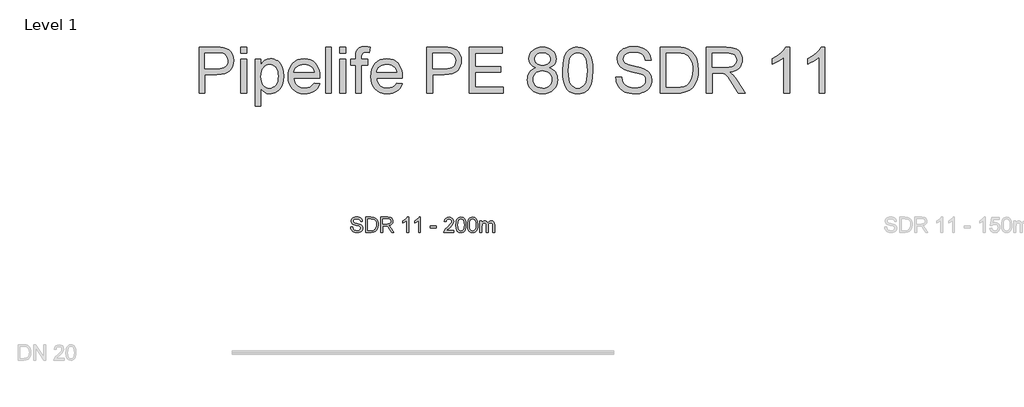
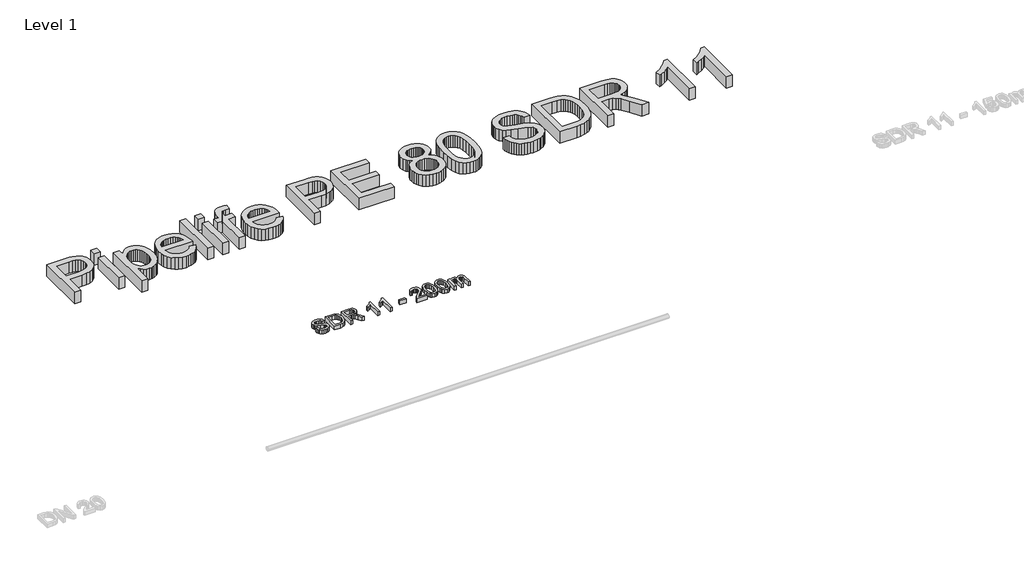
# One storey, part 5 of 6: 2 proxies.
"""IFC4 building model written with IfcOpenShell, lengths in millimetres."""

from ifc_helpers import new_model, si_unit, origin, origin_with_axes, place, context, project, spatial, polyline, outline, extrude, element, save

model = new_model("IFC4")

# Units and contexts
model_context = context("Model", 3, world=origin())
ifc_project = project(units=[si_unit("LENGTHUNIT", "METRE", prefix="MILLI")], contexts=[model_context])

# Site, building, storey
site = spatial("IfcSite", under=ifc_project)
building = spatial("IfcBuilding", under=site)
storey = spatial("IfcBuildingStorey", under=building, Name="Level 1", Elevation=0.0)

# Proxies
placement = place(None, origin())
element("IfcBuildingElementProxy", 1, Name="200mm Arial", ObjectType="200mm Arial", at=placement, inside=storey, context=model_context, shape_type="SweptSolid", body=[
    extrude(outline(polyline([(-14979.1539224, 2231.0128426), (-14954.0398449, 2231.0128426), (-14945.946441, 2205.8742396), (-14937.8162489, 2196.983758), (-14926.1789151, 2189.9817374), (-14911.9541446, 2185.4383947), (-14896.0616424, 2183.9239472), (-14869.8193934, 2188.5102094), (-14852.8722962, 2201.1162991), (-14847.3050153, 2217.9652945), (-14851.4743446, 2233.6370675), (-14857.8264404, 2239.8358791), (-14868.5440692, 2245.0414093), (-14905.1115395, 2254.6308667), (-14944.474913, 2267.0162272), (-14956.9767695, 2275.4652503), (-14965.8365942, 2285.7046325), (-14971.1157008, 2297.5136446), (-14972.875403, 2310.6715573), (-14970.6987679, 2325.3807057), (-14964.1688625, 2339.0965728), (-14953.457365, 2350.7216438), (-14938.7359539, 2359.1584042), (-14921.0653554, 2364.2903581), (-14901.506296, 2366.0010093), (-14880.316293, 2364.2106503), (-14861.7750405, 2358.8395732), (-14846.5447259, 2349.9981425), (-14835.2875368, 2337.796723), (-14828.1628889, 2322.9956041), (-14825.3301975, 2306.3550752), (-14850.444275, 2306.3550752), (-14855.0550627, 2321.3401351), (-14864.6690455, 2332.1558658), (-14879.6908936, 2338.7041653), (-14900.5252773, 2340.8869318), (-14921.8501703, 2338.7286908), (-14936.479611, 2332.2539676), (-14944.9408969, 2322.725824), (-14947.7613255, 2311.4073212), (-14945.7625, 2301.7565502), (-14939.7660235, 2293.9942401), (-14925.5903039, 2287.0535332), (-14898.7594437, 2279.9656734), (-14854.3192987, 2267.3595837), (-14840.0025577, 2258.2483729), (-14830.0145616, 2247.0034466), (-14824.1468437, 2233.7474321), (-14822.1909378, 2218.6029566), (-14824.4411493, 2203.121256), (-14831.1917839, 2188.5592603), (-14842.1669301, 2176.026747), (-14857.0906764, 2166.6334934), (-14875.0371864, 2160.7657756), (-14895.0806238, 2158.8098696), (-14919.6857979, 2160.9190598), (-14939.9377017, 2167.2466301), (-14956.0693272, 2177.8171061), (-14968.3136663, 2192.6550132), (-14976.1740782, 2210.7302819), (-14979.1539224, 2231.0128426)])), origin_with_axes(), (0.0, 0.0, 1.0), 50.0),
    extrude(outline(polyline([(-14784.5198215, 2161.9491293), (-14784.5198215, 2362.8617496), (-14715.2108536, 2362.8617496), (-14679.3546218, 2359.9677446), (-14663.3394923, 2354.388201), (-14649.8259603, 2345.5958213), (-14635.9322836, 2330.2919303), (-14626.036258, 2311.2601685), (-14620.1133578, 2288.8684177), (-14618.1390578, 2263.48456), (-14623.4856095, 2222.9439641), (-14637.2198706, 2193.6850828), (-14655.5649194, 2175.4626613), (-14679.575351, 2165.3826946), (-14711.8753902, 2161.9491293), (-14784.5198215, 2161.9491293)]), holes=[polyline([(-14759.405744, 2187.0632069), (-14714.9655989, 2187.0632069), (-14682.6410343, 2190.6929759), (-14664.0016799, 2200.9446208), (-14655.2767452, 2211.8155338), (-14648.7223143, 2225.8870201), (-14644.6204301, 2243.2203934), (-14643.2531353, 2263.8769675), (-14645.9325425, 2291.2473879), (-14653.9707641, 2311.4563722), (-14665.8472212, 2325.3377861), (-14680.0413349, 2333.7254956), (-14715.652312, 2337.7476721), (-14759.405744, 2337.7476721), (-14759.405744, 2187.0632069)])]), origin_with_axes(), (0.0, 0.0, 1.0), 50.0),
    extrude(outline(polyline([(-14583.6072012, 2161.9491293), (-14583.6072012, 2362.8617496), (-14497.032305, 2362.8617496), (-14473.7637688, 2361.5067176), (-14456.8350657, 2357.4416216), (-14444.4619679, 2349.9368289), (-14434.8602478, 2338.2627069), (-14428.6982244, 2323.7865504), (-14426.6442166, 2307.8756541), (-14430.047125, 2288.0836028), (-14440.2558504, 2271.6760658), (-14457.576961, 2259.6463245), (-14482.3170252, 2252.9876604), (-14468.0432038, 2242.2455062), (-14447.6870667, 2216.3956646), (-14414.1852797, 2161.9491293), (-14443.3705846, 2161.9491293), (-14469.5147318, 2203.5933712), (-14488.3993408, 2231.1599954), (-14501.6676181, 2244.183018), (-14513.6115202, 2248.9654839), (-14528.1796473, 2249.8484007), (-14558.4931237, 2249.8484007), (-14558.4931237, 2161.9491293), (-14583.6072012, 2161.9491293)]), holes=[polyline([(-14558.4931237, 2274.9624783), (-14502.2807548, 2274.9624783), (-14473.6104846, 2278.5186709), (-14464.1804428, 2283.1417213), (-14457.325575, 2289.8984873), (-14451.7582941, 2306.9436864), (-14454.4131759, 2319.1941568), (-14462.377821, 2329.065657), (-14476.0814254, 2335.5771683), (-14495.9531845, 2337.7476721), (-14558.4931237, 2337.7476721), (-14558.4931237, 2274.9624783)])]), origin_with_axes(), (0.0, 0.0, 1.0), 50.0),
    extrude(outline(polyline([(-14219.4530769, 2161.9491293), (-14244.5671544, 2161.9491293), (-14244.5671544, 2318.5197065), (-14268.3568568, 2301.5726092), (-14294.7953095, 2288.8929431), (-14294.7953095, 2312.6335946), (-14257.9825845, 2336.1289913), (-14244.5119721, 2349.7038369), (-14235.6398847, 2362.8617496), (-14219.4530769, 2362.8617496), (-14219.4530769, 2161.9491293)])), origin_with_axes(), (0.0, 0.0, 1.0), 50.0),
    extrude(outline(polyline([(-14065.629352, 2161.9491293), (-14090.7434295, 2161.9491293), (-14090.7434295, 2318.5197065), (-14114.5331319, 2301.5726092), (-14140.9715846, 2288.8929431), (-14140.9715846, 2312.6335946), (-14104.1588596, 2336.1289913), (-14090.6882472, 2349.7038369), (-14081.8161598, 2362.8617496), (-14065.629352, 2362.8617496), (-14065.629352, 2161.9491293)])), origin_with_axes(), (0.0, 0.0, 1.0), 50.0),
    extrude(outline(polyline([(-13933.7804449, 2221.5950635), (-13933.7804449, 2246.709141), (-13855.2989526, 2246.709141), (-13855.2989526, 2221.5950635), (-13933.7804449, 2221.5950635)])), origin_with_axes(), (0.0, 0.0, 1.0), 50.0),
    extrude(outline(polyline([(-13626.1329951, 2187.0632069), (-13626.1329951, 2161.9491293), (-13757.9819022, 2161.9491293), (-13755.2841009, 2179.2641086), (-13740.0292608, 2205.9232905), (-13708.5876129, 2235.0350191), (-13665.2265884, 2276.8754646), (-13657.0963963, 2291.2964388), (-13654.3863323, 2305.3250056), (-13656.9431122, 2317.9004385), (-13664.6134518, 2328.3544185), (-13676.4040697, 2335.3993587), (-13691.3216846, 2337.7476721), (-13706.9873263, 2335.454541), (-13719.1580889, 2328.5751477), (-13727.0123695, 2317.6490524), (-13729.7285649, 2303.2158155), (-13754.8426425, 2306.3550752), (-13748.7541954, 2330.6475496), (-13735.5901514, 2348.3917245), (-13716.0372233, 2359.2442434), (-13690.7821244, 2362.8617496), (-13665.3430844, 2358.8395732), (-13645.8269446, 2346.7730437), (-13633.4109272, 2328.746826), (-13629.2722548, 2306.8455845), (-13633.7358896, 2283.0313567), (-13648.5737968, 2258.4077885), (-13684.5526559, 2223.9985592), (-13713.4436553, 2199.8409748), (-13724.7744207, 2187.0632069), (-13626.1329951, 2187.0632069)])), origin_with_axes(), (0.0, 0.0, 1.0), 50.0),
    extrude(outline(polyline([(-13601.0189175, 2260.7867587), (-13599.1733762, 2292.9457765), (-13593.6367522, 2318.5932829), (-13584.4642278, 2338.1216855), (-13571.7109853, 2351.9233917), (-13555.2850542, 2360.1271601), (-13535.094464, 2362.8617496), (-13519.6188947, 2361.2430689), (-13505.7620063, 2356.3870265), (-13494.1737234, 2348.483695), (-13485.5039711, 2337.7231466), (-13473.7317472, 2307.9982814), (-13469.1700105, 2260.7867587), (-13470.9971577, 2228.811682), (-13476.4785994, 2203.2254892), (-13485.5959416, 2183.6786925), (-13498.33079, 2169.821804), (-13514.7935092, 2161.5628532), (-13535.094464, 2158.8098696), (-13561.1895602, 2163.5923356), (-13581.006137, 2177.9397334), (-13589.7617285, 2193.0688805), (-13596.0157224, 2211.919767), (-13601.0189175, 2260.7867587)]), holes=[polyline([(-13575.90484, 2260.8358096), (-13572.961784, 2221.3314147), (-13564.1326162, 2198.4675487), (-13550.9869662, 2187.5598476), (-13535.094464, 2183.9239472), (-13519.2019618, 2187.5721103), (-13506.0563119, 2198.5165997), (-13497.227144, 2221.3927284), (-13494.284088, 2260.8358096), (-13497.1290421, 2299.4511564), (-13505.6639044, 2322.492832), (-13518.7850289, 2333.9339621), (-13535.3887696, 2337.7476721), (-13551.1095935, 2334.3876832), (-13563.7402087, 2324.3077165), (-13572.8636822, 2299.8313011), (-13575.90484, 2260.8358096)])]), origin_with_axes(), (0.0, 0.0, 1.0), 50.0),
    extrude(outline(polyline([(-13447.1951926, 2260.7867587), (-13445.3496513, 2292.9457765), (-13439.8130273, 2318.5932829), (-13430.6405028, 2338.1216855), (-13417.8872603, 2351.9233917), (-13401.4613293, 2360.1271601), (-13381.2707391, 2362.8617496), (-13365.7951698, 2361.2430689), (-13351.9382813, 2356.3870265), (-13340.3499985, 2348.483695), (-13331.6802461, 2337.7231466), (-13319.9080223, 2307.9982814), (-13315.3462856, 2260.7867587), (-13317.1734328, 2228.811682), (-13322.6548745, 2203.2254892), (-13331.7722166, 2183.6786925), (-13344.507065, 2169.821804), (-13360.9697843, 2161.5628532), (-13381.2707391, 2158.8098696), (-13407.3658353, 2163.5923356), (-13427.1824121, 2177.9397334), (-13435.9380036, 2193.0688805), (-13442.1919975, 2211.919767), (-13447.1951926, 2260.7867587)]), holes=[polyline([(-13422.0811151, 2260.8358096), (-13419.1380591, 2221.3314147), (-13410.3088912, 2198.4675487), (-13397.1632413, 2187.5598476), (-13381.2707391, 2183.9239472), (-13365.3782369, 2187.5721103), (-13352.2325869, 2198.5165997), (-13343.4034191, 2221.3927284), (-13340.4603631, 2260.8358096), (-13343.3053172, 2299.4511564), (-13351.8401795, 2322.492832), (-13364.961304, 2333.9339621), (-13381.5650447, 2337.7476721), (-13397.2858686, 2334.3876832), (-13409.9164838, 2324.3077165), (-13419.0399573, 2299.8313011), (-13422.0811151, 2260.8358096)])]), origin_with_axes(), (0.0, 0.0, 1.0), 50.0),
    extrude(outline(polyline([(-13287.0929483, 2161.9491293), (-13287.0929483, 2309.4943349), (-13261.9788708, 2309.4943349), (-13261.9788708, 2285.2141232), (-13254.4250272, 2296.367079), (-13244.7129425, 2305.1042764), (-13233.1737106, 2310.751265), (-13220.1384252, 2312.6335946), (-13206.1711721, 2310.7144768), (-13194.9752967, 2304.9571236), (-13186.6121127, 2295.7416796), (-13181.1429337, 2283.4482896), (-13171.9888034, 2296.2168605), (-13161.5470861, 2305.3372683), (-13149.8177818, 2310.809513), (-13136.8008906, 2312.6335946), (-13117.9224128, 2309.5985681), (-13103.9612911, 2300.4934887), (-13095.3344583, 2285.0731018), (-13092.4588474, 2263.0921525), (-13092.4588474, 2161.9491293), (-13117.5729249, 2161.9491293), (-13117.5729249, 2252.3009474), (-13119.9028442, 2273.2702211), (-13128.3396047, 2283.5954424), (-13142.6870025, 2287.519517), (-13156.2925049, 2285.0056567), (-13167.3841471, 2277.4640758), (-13174.7601811, 2264.3797395), (-13177.2188591, 2245.237613), (-13177.2188591, 2161.9491293), (-13202.3329366, 2161.9491293), (-13202.3329366, 2255.0968505), (-13203.7860705, 2269.2970955), (-13208.1454722, 2279.4261131), (-13215.8158118, 2285.4961661), (-13227.2017595, 2287.519517), (-13245.792063, 2282.1239144), (-13253.1497029, 2275.4775131), (-13258.152898, 2266.3295141), (-13261.9788708, 2236.3593942), (-13261.9788708, 2161.9491293), (-13287.0929483, 2161.9491293)])), origin_with_axes(), (0.0, 0.0, 1.0), 50.0),
])
element("IfcBuildingElementProxy", 2, Name="600mm Arial", ObjectType="600mm Arial", at=placement, inside=storey, context=model_context, shape_type="SweptSolid", body=[
    extrude(outline(polyline([(-16966.7426717, 3990.4626098), (-16966.7426717, 4593.2004707), (-16743.3647242, 4593.2004707), (-16691.3462101, 4591.7657309), (-16653.3072118, 4587.4615116), (-16613.152892, 4576.7377514), (-16580.0986947, 4559.2817508), (-16553.4824324, 4534.3025633), (-16532.6419174, 4501.0092427), (-16519.1774363, 4461.7378398), (-16514.689276, 4418.824405), (-16517.7197039, 4381.8246734), (-16526.8109877, 4347.7863917), (-16541.9631274, 4316.7095602), (-16563.176123, 4288.5941787), (-16592.2985814, 4265.2888543), (-16631.1791098, 4248.642194), (-16679.8177081, 4238.6541979), (-16738.2143763, 4235.3248658), (-16891.4004391, 4235.3248658), (-16891.4004391, 3990.4626098), (-16966.7426717, 3990.4626098)]), holes=[polyline([(-16891.4004391, 4310.6670984), (-16733.7997923, 4310.6670984), (-16697.5634158, 4312.3961438), (-16666.992422, 4317.5832799), (-16642.0868109, 4326.2285068), (-16622.8465826, 4338.3318245), (-16608.4899877, 4353.5713361), (-16598.2352771, 4371.625145), (-16592.0824507, 4392.4932512), (-16590.0315086, 4416.1756547), (-16594.8691569, 4450.0207982), (-16609.3821016, 4478.568441), (-16631.767721, 4500.0527496), (-16660.2233933, 4512.7078902), (-16689.2860709, 4516.5706511), (-16735.5656259, 4517.8582381), (-16891.4004391, 4517.8582381), (-16891.4004391, 4310.6670984)])]), origin_with_axes(), (0.0, 0.0, 1.0), 150.0),
    extrude(outline(polyline([(-16420.5114852, 3990.4626098), (-16420.5114852, 4433.0982264), (-16345.1692526, 4433.0982264), (-16345.1692526, 3990.4626098), (-16420.5114852, 3990.4626098)])), origin_with_axes(), (0.0, 0.0, 1.0), 150.0),
    extrude(outline(polyline([(-16420.5114852, 4517.8582381), (-16420.5114852, 4593.2004707), (-16345.1692526, 4593.2004707), (-16345.1692526, 4517.8582381), (-16420.5114852, 4517.8582381)])), origin_with_axes(), (0.0, 0.0, 1.0), 150.0),
    extrude(outline(polyline([(-16232.1559037, 3820.9425865), (-16232.1559037, 4433.0982264), (-16156.8136711, 4433.0982264), (-16156.8136711, 4359.2275218), (-16132.2391538, 4395.6662334), (-16104.7215806, 4421.6938846), (-16072.6422706, 4437.3104753), (-16034.3825431, 4442.5160055), (-16008.1065716, 4440.6949896), (-15983.4308868, 4435.231942), (-15960.3554886, 4426.1268626), (-15938.8803772, 4413.3797515), (-15919.4746019, 4397.3217024), (-15902.6072124, 4378.2838091), (-15888.2782087, 4356.2660717), (-15876.4875908, 4331.2684902), (-15860.7054532, 4275.7550971), (-15855.4447407, 4215.1649325), (-15861.3860349, 4150.730401), (-15868.8126526, 4121.0653166), (-15879.2099175, 4093.1016865), (-15892.4352753, 4067.570676), (-15908.3461716, 4045.2034507), (-15926.9426064, 4026.0000106), (-15948.2245798, 4009.9603556), (-15971.1482267, 3997.3098135), (-15994.6696817, 3988.273712), (-16018.788945, 3982.8520511), (-16043.5060166, 3981.0448308), (-16078.1421064, 3985.882479), (-16109.0625881, 4000.3954237), (-16135.5316977, 4022.3027965), (-16156.8136711, 4049.3237291), (-16156.8136711, 3820.9425865), (-16232.1559037, 3820.9425865)]), holes=[polyline([(-16156.8136711, 4208.248751), (-16154.7765246, 4171.9387981), (-16148.6650849, 4140.7056167), (-16138.4793522, 4114.5492068), (-16124.2193263, 4093.4695685), (-16107.0530327, 4077.2459725), (-16088.1484967, 4065.6576896), (-16067.5057182, 4058.7047199), (-16045.1246974, 4056.3870634), (-16022.4217797, 4058.7874934), (-16001.4019222, 4065.9887834), (-15982.0651249, 4077.9909335), (-15964.4113876, 4094.7939437), (-15949.7007063, 4116.6369371), (-15939.1930769, 4143.7590372), (-15932.8884992, 4176.1602439), (-15930.7869733, 4213.8405573), (-15932.8379154, 4249.8378105), (-15938.9907418, 4281.0158096), (-15949.2454524, 4307.3745546), (-15963.6020472, 4328.9140454), (-15980.8097276, 4345.6526762), (-15999.6176946, 4357.608841), (-16020.0259482, 4364.7825399), (-16042.0344886, 4367.1737729), (-16063.9740511, 4364.6307886), (-16084.6168295, 4357.0018357), (-16103.962824, 4344.2869143), (-16122.0120344, 4326.4860242), (-16137.2377504, 4303.8382889), (-16148.1132619, 4276.5828316), (-16154.6385688, 4244.7196523), (-16156.8136711, 4208.248751)])]), origin_with_axes(), (0.0, 0.0, 1.0), 150.0),
    extrude(outline(polyline([(-15460.7809362, 4122.3115169), (-15386.9102316, 4112.8937378), (-15398.2363985, 4083.3068284), (-15413.5264939, 4057.233192), (-15432.7805179, 4034.6728286), (-15455.9984703, 4015.6257383), (-15482.9412279, 4000.4965913), (-15513.3696674, 3989.6900576), (-15547.2837889, 3983.2061375), (-15584.6835922, 3981.0448308), (-15631.4321967, 3984.7742345), (-15673.0856356, 3995.9624457), (-15709.6439089, 4014.6094643), (-15741.1070165, 4040.7152904), (-15766.4081008, 4073.553357), (-15784.4803038, 4112.3970971), (-15795.3236256, 4157.2465109), (-15798.9380662, 4208.1015982), (-15795.2868374, 4260.6811323), (-15784.333151, 4307.0250667), (-15766.077007, 4347.1334012), (-15740.5184054, 4381.0061359), (-15709.1380712, 4407.9167039), (-15673.4167294, 4427.1385381), (-15633.3543802, 4438.6716387), (-15588.9510233, 4442.5160055), (-15545.9778078, 4438.6808357), (-15507.1156735, 4427.1753263), (-15472.3646205, 4407.9994773), (-15441.7246489, 4381.1532887), (-15416.7132717, 4347.3541304), (-15398.8480023, 4307.3193723), (-15388.1288407, 4261.0490143), (-15384.5557868, 4208.5430566), (-15384.9972452, 4188.2359704), (-15723.5958336, 4188.2359704), (-15719.2318334, 4158.1708144), (-15710.5544168, 4131.8396606), (-15697.5635839, 4109.242509), (-15680.2593345, 4090.3793597), (-15659.598162, 4075.5077301), (-15636.5365594, 4064.8851375), (-15611.0745268, 4058.5115819), (-15583.2120642, 4056.3870634), (-15543.1129267, 4060.3234007), (-15509.3413596, 4072.1324128), (-15481.8973627, 4092.5498635), (-15460.7809362, 4122.3115169)]), holes=[polyline([(-15723.5958336, 4263.5782031), (-15459.8980194, 4263.5782031), (-15470.0883507, 4303.3830349), (-15478.8531392, 4319.0364138), (-15490.064343, 4331.8571014), (-15510.6105525, 4347.3081452), (-15533.9894533, 4358.344605), (-15560.2010454, 4364.9664809), (-15589.2453289, 4367.1737729), (-15615.7374311, 4365.4125378), (-15640.0314384, 4360.1288327), (-15662.1273507, 4351.3226574), (-15682.0251681, 4338.9940121), (-15698.7224122, 4323.7131137), (-15711.2166044, 4306.0501794), (-15719.5077449, 4286.0052092), (-15723.5958336, 4263.5782031)])]), origin_with_axes(), (0.0, 0.0, 1.0), 150.0),
    extrude(outline(polyline([(-15309.2135542, 3990.4626098), (-15309.2135542, 4593.2004707), (-15233.8713216, 4593.2004707), (-15233.8713216, 3990.4626098), (-15309.2135542, 3990.4626098)])), origin_with_axes(), (0.0, 0.0, 1.0), 150.0),
    extrude(outline(polyline([(-15120.8579727, 4517.8582381), (-15120.8579727, 4593.2004707), (-15045.5157401, 4593.2004707), (-15045.5157401, 4517.8582381), (-15120.8579727, 4517.8582381)])), origin_with_axes(), (0.0, 0.0, 1.0), 150.0),
    extrude(outline(polyline([(-15120.8579727, 3990.4626098), (-15120.8579727, 4433.0982264), (-15045.5157401, 4433.0982264), (-15045.5157401, 3990.4626098), (-15120.8579727, 3990.4626098)])), origin_with_axes(), (0.0, 0.0, 1.0), 150.0),
    extrude(outline(polyline([(-14913.666833, 3990.4626098), (-14913.666833, 4357.7559938), (-14979.5912865, 4357.7559938), (-14979.5912865, 4433.0982264), (-14913.666833, 4433.0982264), (-14913.666833, 4477.6855242), (-14911.6802702, 4514.5840884), (-14905.7205819, 4540.519769), (-14890.5638437, 4565.5725329), (-14867.1665488, 4585.4013724), (-14834.4250512, 4598.3140305), (-14791.235705, 4602.6182498), (-14758.5309956, 4600.5581106), (-14722.5153483, 4594.3776931), (-14733.5518082, 4523.74435), (-14776.9618836, 4527.2760172), (-14805.6014969, 4524.1490202), (-14824.418661, 4514.7680294), (-14834.8481155, 4496.8521762), (-14838.3246004, 4468.1205924), (-14838.3246004, 4433.0982264), (-14753.5645887, 4433.0982264), (-14753.5645887, 4357.7559938), (-14838.3246004, 4357.7559938), (-14838.3246004, 3990.4626098), (-14913.666833, 3990.4626098)])), origin_with_axes(), (0.0, 0.0, 1.0), 150.0),
    extrude(outline(polyline([(-14377.7363424, 4122.3115169), (-14303.8656378, 4112.8937378), (-14315.1918047, 4083.3068284), (-14330.4819001, 4057.233192), (-14349.7359241, 4034.6728286), (-14372.9538765, 4015.6257383), (-14399.8966341, 4000.4965913), (-14430.3250736, 3989.6900576), (-14464.2391951, 3983.2061375), (-14501.6389984, 3981.0448308), (-14548.3876029, 3984.7742345), (-14590.0410418, 3995.9624457), (-14626.5993151, 4014.6094643), (-14658.0624227, 4040.7152904), (-14683.363507, 4073.553357), (-14701.43571, 4112.3970971), (-14712.2790318, 4157.2465109), (-14715.8934724, 4208.1015982), (-14712.2422436, 4260.6811323), (-14701.2885572, 4307.0250667), (-14683.0324132, 4347.1334012), (-14657.4738116, 4381.0061359), (-14626.0934774, 4407.9167039), (-14590.3721356, 4427.1385381), (-14550.3097864, 4438.6716387), (-14505.9064295, 4442.5160055), (-14462.933214, 4438.6808357), (-14424.0710797, 4427.1753263), (-14389.3200267, 4407.9994773), (-14358.6800551, 4381.1532887), (-14333.6686779, 4347.3541304), (-14315.8034085, 4307.3193723), (-14305.0842469, 4261.0490143), (-14301.511193, 4208.5430566), (-14301.9526514, 4188.2359704), (-14640.5512398, 4188.2359704), (-14636.1872396, 4158.1708144), (-14627.509823, 4131.8396606), (-14614.5189901, 4109.242509), (-14597.2147407, 4090.3793597), (-14576.5535682, 4075.5077301), (-14553.4919656, 4064.8851375), (-14528.029933, 4058.5115819), (-14500.1674704, 4056.3870634), (-14460.0683329, 4060.3234007), (-14426.2967658, 4072.1324128), (-14398.8527689, 4092.5498635), (-14377.7363424, 4122.3115169)]), holes=[polyline([(-14640.5512398, 4263.5782031), (-14376.8534256, 4263.5782031), (-14387.0437569, 4303.3830349), (-14395.8085454, 4319.0364138), (-14407.0197492, 4331.8571014), (-14427.5659587, 4347.3081452), (-14450.9448595, 4358.344605), (-14477.1564516, 4364.9664809), (-14506.2007351, 4367.1737729), (-14532.6928373, 4365.4125378), (-14556.9868446, 4360.1288327), (-14579.0827569, 4351.3226574), (-14598.9805743, 4338.9940121), (-14615.6778184, 4323.7131137), (-14628.1720106, 4306.0501794), (-14636.4631511, 4286.0052092), (-14640.5512398, 4263.5782031)])]), origin_with_axes(), (0.0, 0.0, 1.0), 150.0),
    extrude(outline(polyline([(-13981.3067044, 3990.4626098), (-13981.3067044, 4593.2004707), (-13757.928757, 4593.2004707), (-13705.9102428, 4591.7657309), (-13667.8712445, 4587.4615116), (-13627.7169248, 4576.7377514), (-13594.6627275, 4559.2817508), (-13568.0464651, 4534.3025633), (-13547.2059501, 4501.0092427), (-13533.7414691, 4461.7378398), (-13529.2533087, 4418.824405), (-13532.2837367, 4381.8246734), (-13541.3750205, 4347.7863917), (-13556.5271602, 4316.7095602), (-13577.7401557, 4288.5941787), (-13606.8626142, 4265.2888543), (-13645.7431425, 4248.642194), (-13694.3817408, 4238.6541979), (-13752.778409, 4235.3248658), (-13905.9644718, 4235.3248658), (-13905.9644718, 3990.4626098), (-13981.3067044, 3990.4626098)]), holes=[polyline([(-13905.9644718, 4310.6670984), (-13748.3638251, 4310.6670984), (-13712.1274486, 4312.3961438), (-13681.5564548, 4317.5832799), (-13656.6508437, 4326.2285068), (-13637.4106153, 4338.3318245), (-13623.0540205, 4353.5713361), (-13612.7993099, 4371.625145), (-13606.6464835, 4392.4932512), (-13604.5955414, 4416.1756547), (-13609.4331896, 4450.0207982), (-13623.9461343, 4478.568441), (-13646.3317537, 4500.0527496), (-13674.787426, 4512.7078902), (-13703.8501037, 4516.5706511), (-13750.1296587, 4517.8582381), (-13905.9644718, 4517.8582381), (-13905.9644718, 4310.6670984)])]), origin_with_axes(), (0.0, 0.0, 1.0), 150.0),
    extrude(outline(polyline([(-13425.6577389, 3990.4626098), (-13425.6577389, 4593.2004707), (-12992.4399014, 4593.2004707), (-12992.4399014, 4517.8582381), (-13350.3155063, 4517.8582381), (-13350.3155063, 4338.9204357), (-13011.2754595, 4338.9204357), (-13011.2754595, 4263.5782031), (-13350.3155063, 4263.5782031), (-13350.3155063, 4065.8048424), (-12983.0221223, 4065.8048424), (-12983.0221223, 3990.4626098), (-13425.6577389, 3990.4626098)])), origin_with_axes(), (0.0, 0.0, 1.0), 150.0),
    extrude(outline(polyline([(-12553.0416463, 4322.4393223), (-12593.3799071, 4342.30495), (-12609.0378845, 4354.8865143), (-12621.6884266, 4369.2339121), (-12638.4086633, 4402.6743854), (-12643.9820756, 4442.0745471), (-12640.9470491, 4472.8018908), (-12631.8419697, 4500.9724545), (-12616.6668374, 4526.5862385), (-12595.4216522, 4549.6432425), (-12569.1272866, 4568.6995299), (-12538.8046131, 4582.3111637), (-12504.4536318, 4590.478144), (-12466.0743427, 4593.2004707), (-12427.5111125, 4590.4137646), (-12392.9026138, 4582.0536463), (-12362.2488466, 4568.1201157), (-12335.5498108, 4548.6131729), (-12313.9183495, 4525.1055134), (-12298.4673057, 4499.1698328), (-12289.1966794, 4470.8061309), (-12286.1064706, 4440.0144079), (-12291.6063065, 4401.8834391), (-12308.105814, 4369.0131829), (-12320.5264298, 4354.7623541), (-12335.7889341, 4342.2497677), (-12374.8396079, 4322.4393223), (-12350.0765511, 4311.9041016), (-12328.4680824, 4298.5453867), (-12310.0142018, 4282.3631774), (-12294.7149093, 4263.3574739), (-12282.7081607, 4241.9513403), (-12274.1319117, 4218.5678409), (-12268.9861623, 4193.2069759), (-12267.2709125, 4165.8687451), (-12270.6738209, 4128.2895993), (-12280.8825463, 4093.8374505), (-12297.8970886, 4062.5122986), (-12321.7174478, 4034.3141437), (-12351.0928251, 4011.0088193), (-12384.7724218, 3994.362159), (-12422.7562378, 3984.3741628), (-12465.0442731, 3981.0448308), (-12507.3323084, 3984.3879584), (-12545.3161244, 3994.4173413), (-12578.9957211, 4011.1329794), (-12608.3710984, 4034.5348729), (-12632.1914576, 4062.9307644), (-12649.2059999, 4094.6283968), (-12659.4147253, 4129.6277701), (-12662.8176337, 4167.9288843), (-12661.033406, 4196.5133153), (-12655.680723, 4222.6697252), (-12646.7595846, 4246.3981139), (-12634.2699909, 4267.6984814), (-12618.4878533, 4286.1845517), (-12599.6890833, 4301.4700486), (-12577.873681, 4313.5549721), (-12553.0416463, 4322.4393223)]), holes=[polyline([(-12587.4754011, 4170.5776347), (-12584.33001, 4141.7540803), (-12574.8938369, 4113.850231), (-12557.4746244, 4089.514837), (-12530.3801154, 4071.3966488), (-12497.9329235, 4060.1394597), (-12464.4556619, 4056.3870634), (-12437.2140002, 4058.3598306), (-12413.1729118, 4064.2781322), (-12392.3323968, 4074.1419682), (-12374.6924551, 4087.9513386), (-12360.657757, 4104.8049325), (-12350.6329726, 4123.801439), (-12344.618102, 4144.9408581), (-12342.6131451, 4168.2231899), (-12344.6824813, 4191.8780022), (-12350.89049, 4213.3990989), (-12361.2371711, 4232.7864801), (-12375.7225247, 4250.0401456), (-12393.8407129, 4264.2036024), (-12415.0858982, 4274.3203573), (-12439.4580803, 4280.3904102), (-12466.9572595, 4282.4137612), (-12493.7988495, 4280.4180014), (-12517.5226397, 4274.4307219), (-12538.12863, 4264.4519228), (-12555.6168203, 4250.481604), (-12569.5549494, 4233.513047), (-12579.5107559, 4214.5395331), (-12585.4842398, 4193.5610623), (-12587.4754011, 4170.5776347)]), polyline([(-12568.6398429, 4439.8672551), (-12566.9705784, 4422.5951955), (-12561.9627847, 4406.9786048), (-12553.616462, 4393.0174831), (-12541.9316101, 4380.7118303), (-12527.0553819, 4370.6686518), (-12509.1349302, 4363.4949529), (-12488.170255, 4359.1907336), (-12464.1613563, 4357.7559938), (-12440.7456673, 4359.1815365), (-12420.2362461, 4363.4581647), (-12402.6330926, 4370.5858784), (-12387.9362069, 4380.5646775), (-12376.3479241, 4392.6128129), (-12368.0705792, 4405.9485352), (-12363.1041722, 4420.5718445), (-12361.4487033, 4436.4827408), (-12363.1593545, 4453.0144379), (-12368.2913084, 4468.1757747), (-12376.8445648, 4481.966751), (-12388.8191237, 4494.3873668), (-12403.8471032, 4504.655873), (-12421.5606213, 4511.9905203), (-12441.9596779, 4516.3913087), (-12465.0442731, 4517.8582381), (-12488.3082108, 4516.4234983), (-12508.8038364, 4512.119279), (-12526.5311501, 4504.9455801), (-12541.4901517, 4494.9024016), (-12553.3681416, 4482.8542663), (-12561.8524201, 4469.6656967), (-12566.9429872, 4455.336693), (-12568.6398429, 4439.8672551)])]), origin_with_axes(), (0.0, 0.0, 1.0), 150.0),
    extrude(outline(polyline([(-12201.346459, 4286.9754979), (-12195.8098349, 4383.4525512), (-12188.8890549, 4424.3656276), (-12179.1999628, 4460.3950705), (-12166.7839455, 4491.8351855), (-12151.6823896, 4518.9802782), (-12133.8952951, 4541.8303486), (-12113.4226621, 4560.3853968), (-12090.1955126, 4574.7419916), (-12064.1448689, 4584.9967022), (-12035.2707308, 4591.1495286), (-12003.5730984, 4593.2004707), (-11957.1463906, 4588.3444284), (-11915.5757251, 4573.7763014), (-11880.8108766, 4550.0663068), (-11854.8016195, 4517.7846617), (-11835.156721, 4477.2072777), (-11819.484948, 4428.6100661), (-11809.2210403, 4366.8978614), (-11805.7997377, 4286.9754979), (-11811.2811795, 4191.0502677), (-11818.1329816, 4150.2751471), (-11827.7255047, 4114.2916894), (-11840.044953, 4082.8377788), (-11855.077531, 4055.6512994), (-11872.8232387, 4032.7322511), (-11893.2820762, 4014.0806339), (-11916.5368168, 3999.62747), (-11942.670234, 3989.3037815), (-11971.6823279, 3983.1095685), (-12003.5730984, 3981.0448308), (-12045.0701874, 3984.6316802), (-12081.8583869, 3995.3922286), (-12113.9376969, 4013.3264758), (-12141.3081173, 4038.434422), (-12167.5748918, 4083.8218632), (-12186.3368736, 4140.3745229), (-12197.5940626, 4208.0924011), (-12201.346459, 4286.9754979)]), holes=[polyline([(-12126.0042263, 4287.1226507), (-12123.7969344, 4221.62586), (-12117.1750585, 4168.609466), (-12106.1385986, 4128.0734687), (-12090.6875548, 4100.017868), (-12071.9991495, 4080.929391), (-12051.2506049, 4067.2947645), (-12028.4419212, 4059.1139887), (-12003.5730984, 4056.3870634), (-11978.7042755, 4059.1231857), (-11955.8955918, 4067.3315527), (-11935.1470472, 4081.0121644), (-11916.4586419, 4100.1650208), (-11901.0075981, 4128.2666067), (-11889.9711382, 4168.793407), (-11883.3492623, 4221.7454217), (-11881.1419704, 4287.1226507), (-11883.2756859, 4350.8857976), (-11889.6768326, 4402.968691), (-11900.3454105, 4443.3713311), (-11915.2814195, 4472.0937179), (-11933.6571252, 4492.1156955), (-11954.644793, 4506.4171081), (-11978.244423, 4514.9979556), (-12004.4560151, 4517.8582381), (-12029.1960793, 4515.3382465), (-12051.6184869, 4507.7782714), (-12071.723238, 4495.1783131), (-12089.5103324, 4477.5383714), (-12105.476411, 4446.2684019), (-12116.8807529, 4404.1091252), (-12123.723358, 4351.0605415), (-12126.0042263, 4287.1226507)])]), origin_with_axes(), (0.0, 0.0, 1.0), 150.0),
    extrude(outline(polyline([(-11504.4308073, 4197.6537495), (-11429.0885747, 4197.6537495), (-11420.4433478, 4155.8439608), (-11404.808363, 4122.2379405), (-11380.4177867, 4095.5664959), (-11345.5057854, 4074.5604339), (-11302.8314739, 4060.930406), (-11255.1539674, 4056.3870634), (-11213.1786317, 4059.82676), (-11176.4272204, 4070.14585), (-11146.6471729, 4086.4798106), (-11125.5859287, 4107.9641191), (-11113.0595467, 4132.6306069), (-11108.8840861, 4158.5111052), (-11112.011083, 4183.729416), (-11121.3920739, 4205.5264242), (-11140.4483613, 4224.1228591), (-11172.6012476, 4239.7394498), (-11282.3036586, 4268.5078218), (-11354.3165592, 4287.545715), (-11400.3937791, 4305.6639033), (-11437.8993485, 4331.0109728), (-11464.4788226, 4361.7291194), (-11480.3161425, 4397.1561555), (-11485.5952491, 4436.6298936), (-11483.9627728, 4459.0660968), (-11479.0653437, 4480.7573389), (-11470.902962, 4501.70362), (-11459.4756275, 4521.9049401), (-11444.912099, 4540.5381631), (-11427.3411352, 4556.7801532), (-11406.7627361, 4570.6309103), (-11383.1769017, 4582.0904345), (-11330.1651062, 4597.486296), (-11271.4879279, 4602.6182498), (-11207.9179192, 4597.2471727), (-11152.2941615, 4581.1339413), (-11127.9587675, 4569.1317912), (-11106.6032177, 4554.6096494), (-11088.2275121, 4537.567516), (-11072.8316506, 4518.0053909), (-11060.5351949, 4496.4934912), (-11051.4577066, 4473.6020341), (-11045.5991859, 4449.3310195), (-11042.9596325, 4423.6804474), (-11118.3018652, 4423.6804474), (-11123.3418485, 4447.7215357), (-11132.1342282, 4468.6356272), (-11144.6790042, 4486.4227216), (-11160.9761766, 4501.0828191), (-11181.329248, 4512.5423433), (-11206.041721, 4520.7277177), (-11235.1135957, 4525.6389423), (-11268.544872, 4527.2760172), (-11303.0430061, 4525.6573364), (-11332.5195509, 4520.8012941), (-11356.9745066, 4512.7078902), (-11376.407873, 4501.3771247), (-11391.2151233, 4487.7562939), (-11401.7917306, 4472.7926937), (-11408.1376951, 4456.4863243), (-11410.2530165, 4438.8371856), (-11408.7538974, 4423.6528562), (-11404.25654, 4409.8848725), (-11396.7609444, 4397.5332345), (-11386.2671104, 4386.5979422), (-11369.7492089, 4376.2420641), (-11343.7399518, 4365.7758213), (-11263.2473713, 4344.512242), (-11180.1796167, 4324.3155205), (-11129.9269362, 4306.6939729), (-11086.9767133, 4279.3603406), (-11070.3714397, 4263.2930945), (-11057.0127248, 4245.6255617), (-11046.7442186, 4226.4497127), (-11039.4095713, 4205.857518), (-11033.5418535, 4160.4240916), (-11035.2295121, 4136.8566513), (-11040.2924881, 4113.9789897), (-11048.7307813, 4091.7911069), (-11060.5443919, 4070.2930028), (-11075.5263862, 4050.3170104), (-11093.4698305, 4032.6954629), (-11114.3747249, 4017.4283601), (-11138.2410693, 4004.515702), (-11164.3744865, 3994.2471959), (-11192.0805993, 3986.9125486), (-11252.2109114, 3981.0448308), (-11290.7511489, 3982.6267233), (-11326.0264337, 3987.3724011), (-11358.0367658, 3995.281864), (-11386.7821452, 4006.355112), (-11412.4373159, 4020.6105393), (-11435.1770217, 4038.06654), (-11455.0012627, 4058.723114), (-11471.9100389, 4082.5802614), (-11485.5308698, 4108.86543), (-11495.4912748, 4136.8060675), (-11501.791254, 4166.402174), (-11504.4308073, 4197.6537495)])), origin_with_axes(), (0.0, 0.0, 1.0), 150.0),
    extrude(outline(polyline([(-10920.5285046, 3990.4626098), (-10920.5285046, 4593.2004707), (-10712.6016009, 4593.2004707), (-10650.4663319, 4591.029967), (-10605.0329055, 4584.5184556), (-10556.9875169, 4567.7798249), (-10516.446921, 4541.4026858), (-10494.1072869, 4519.8448009), (-10474.765891, 4495.4910128), (-10458.4227334, 4468.3413216), (-10445.077814, 4438.3957272), (-10434.7127388, 4405.9301411), (-10427.3091136, 4371.2204748), (-10421.3862135, 4295.0689018), (-10425.3961272, 4230.376853), (-10437.4258685, 4173.4471142), (-10455.7463918, 4124.9786614), (-10478.6286519, 4085.6704702), (-10504.9690028, 4054.6396239), (-10533.6637984, 4031.0032057), (-10566.6076311, 4013.4736286), (-10605.6950931, 4000.7633057), (-10650.9997608, 3993.0377838), (-10702.5952106, 3990.4626098), (-10920.5285046, 3990.4626098)]), holes=[polyline([(-10845.1862719, 4065.8048424), (-10711.8658369, 4065.8048424), (-10656.7203258, 4068.5271692), (-10614.892143, 4076.6941495), (-10583.3278678, 4089.8275367), (-10558.9740797, 4107.4490843), (-10532.7992757, 4140.0618232), (-10513.1359831, 4182.2762821), (-10500.8303304, 4234.2764021), (-10496.7284461, 4296.2461242), (-10498.7380015, 4339.9872934), (-10504.7666677, 4378.3573855), (-10514.8144447, 4411.3564005), (-10528.8813325, 4438.9843384), (-10545.8268969, 4461.8665985), (-10564.5107037, 4480.6285802), (-10584.932753, 4495.2702836), (-10607.0930447, 4505.7917087), (-10650.4295437, 4514.8416058), (-10713.9259761, 4517.8582381), (-10845.1862719, 4517.8582381), (-10845.1862719, 4065.8048424)])]), origin_with_axes(), (0.0, 0.0, 1.0), 150.0),
    extrude(outline(polyline([(-10317.7906437, 3990.4626098), (-10317.7906437, 4593.2004707), (-10058.0659551, 4593.2004707), (-9988.2603465, 4589.1353747), (-9937.474237, 4576.9400865), (-9917.8753237, 4567.246396), (-9900.3549437, 4554.4257084), (-9884.913097, 4538.4780239), (-9871.5497835, 4519.4033425), (-9860.7662425, 4498.2271351), (-9853.0637132, 4475.974873), (-9848.4421957, 4452.6465559), (-9846.9016898, 4428.2421841), (-9849.4538712, 4397.2849142), (-9857.1104152, 4368.8660301), (-9869.8713219, 4342.9855317), (-9887.7365913, 4319.6434191), (-9910.9361496, 4299.5846533), (-9939.6999231, 4283.5541954), (-9974.0279118, 4271.5520453), (-10013.9201156, 4263.5782031), (-9989.088081, 4247.3546071), (-9971.0986514, 4231.3517403), (-9940.233352, 4194.7474818), (-9910.0302402, 4153.8022157), (-9809.5248791, 3990.4626098), (-9897.080794, 3990.4626098), (-9975.5132353, 4115.3953354), (-10032.1670626, 4198.0952079), (-10053.2283068, 4222.2098727), (-10071.9718945, 4237.1642758), (-10107.8036008, 4251.5116736), (-10151.5079818, 4254.160424), (-10242.448411, 4254.160424), (-10242.448411, 3990.4626098), (-10317.7906437, 3990.4626098)]), holes=[polyline([(-10242.448411, 4329.5026566), (-10073.8113045, 4329.5026566), (-10025.3796398, 4332.1698011), (-9987.800494, 4340.1712344), (-9959.5103686, 4354.0403857), (-9938.945765, 4374.3106836), (-9926.4193831, 4398.8300186), (-9922.2439224, 4425.4462809), (-9924.2350837, 4444.7141004), (-9930.2085676, 4462.1976922), (-9940.1643741, 4477.8970564), (-9954.1025032, 4491.8121929), (-9972.3448517, 4503.2073377), (-9995.2133162, 4511.3467268), (-10022.7078968, 4516.2303603), (-10054.8285935, 4517.8582381), (-10242.448411, 4517.8582381), (-10242.448411, 4329.5026566)])]), origin_with_axes(), (0.0, 0.0, 1.0), 150.0),
    extrude(outline(polyline([(-9225.3282708, 3990.4626098), (-9300.6705034, 3990.4626098), (-9300.6705034, 4460.1743413), (-9332.124414, 4434.7353013), (-9372.0396105, 4409.3330495), (-9413.9413697, 4387.1313711), (-9451.3549686, 4371.2940512), (-9451.3549686, 4442.5160055), (-9392.1811497, 4474.7056801), (-9340.9167937, 4513.0021958), (-9300.5049565, 4553.7267326), (-9273.8886941, 4593.2004707), (-9225.3282708, 4593.2004707), (-9225.3282708, 3990.4626098)])), origin_with_axes(), (0.0, 0.0, 1.0), 150.0),
    extrude(outline(polyline([(-8763.857096, 3990.4626098), (-8839.1993286, 3990.4626098), (-8839.1993286, 4460.1743413), (-8870.6532392, 4434.7353013), (-8910.5684357, 4409.3330495), (-8952.470195, 4387.1313711), (-8989.8837939, 4371.2940512), (-8989.8837939, 4442.5160055), (-8930.7099749, 4474.7056801), (-8879.4456189, 4513.0021958), (-8839.0337817, 4553.7267326), (-8812.4175194, 4593.2004707), (-8763.857096, 4593.2004707), (-8763.857096, 3990.4626098)])), origin_with_axes(), (0.0, 0.0, 1.0), 150.0),
])

save(model, "model.ifc")
